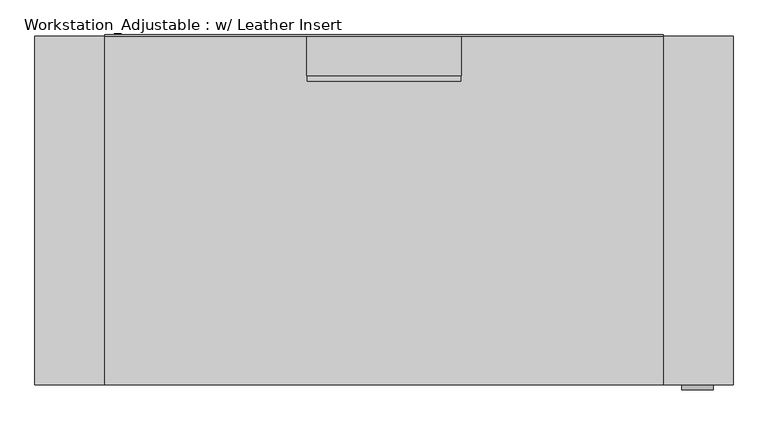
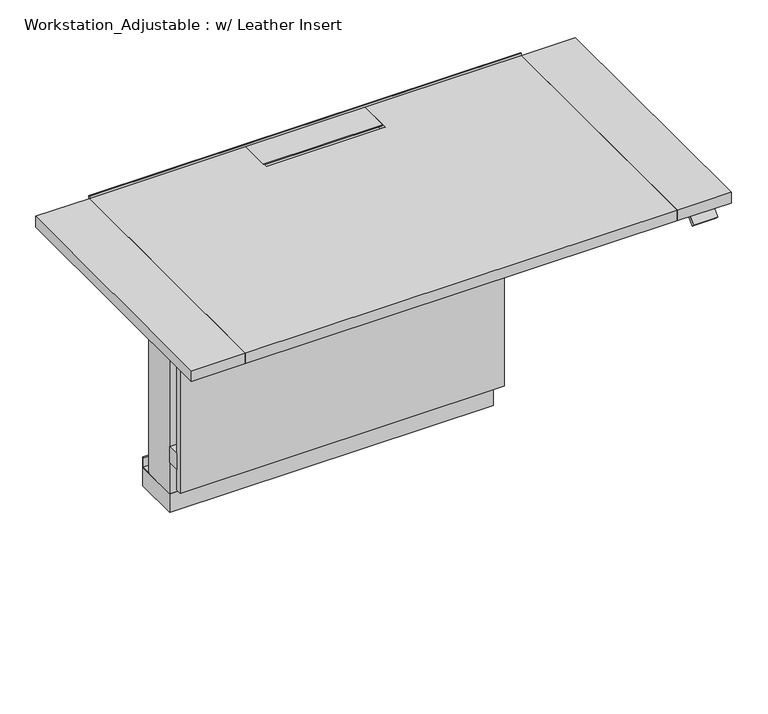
"""IFC4 building model written with IfcOpenShell, lengths in millimetres: furniture geometry, Workstation_Adjustable : w/ Leather Insert."""

from ifc_helpers import new_model, si_unit, frame, origin, origin_with_axes, place, context, project, spatial, polyline, outline, extrude, faceted_brep, source, transform, mapped, element, save


def workstation_adjustable_w_leather_insert_ceb2d98d(model_context):
    return source(origin(), model_context, "Body", "SolidModel", [
        extrude(outline(polyline([(-752.4201976, 882.65), (-701.8734375, 882.65), (-701.8734375, 869.7517789), (-753.8937348, 869.7517789), (-768.677545, 854.9679687), (-775.2953125, 861.5857362), (-757.9809444, 878.9001044), (-752.4201976, 878.9001044), (-752.4201976, 882.65)])), frame((650.24, 0.0, 0.0), z_axis=(1.0, 0.0, 0.0), x_axis=(0.0, 1.0, 0.0)), (0.0, 0.0, 1.0), 68.58),
        extrude(outline(polyline([(168.275, -3.175), (168.275, -89.535), (-168.275, -89.535), (-168.275, -3.175), (168.275, -3.175)])), frame((0.0, 0.0, 911.225), z_axis=(0.0, 0.0, 1.0), x_axis=(1.0, 0.0, 0.0)), (0.0, 0.0, 1.0), 3.175),
        faceted_brep([(609.6, -765.175, 914.4), (609.6, -3.175, 914.4), (168.275, -3.175, 914.4), (168.275, -102.235, 914.4), (-168.275, -102.235, 914.4), (-168.275, -3.175, 914.4), (-609.6, -3.175, 914.4), (-609.6, -765.175, 914.4), (609.6, -765.175, 882.65), (-609.6, -765.175, 882.65), (-609.6, -3.175, 882.65), (609.6, -3.175, 882.65), (-168.275, -3.175, 895.35), (168.275, -3.175, 895.35), (-168.275, -102.235, 895.35), (168.275, -102.235, 895.35)], [[[0, 1, 2, 3, 4, 5, 6, 7]], [[8, 9, 10, 11]], [[1, 0, 8, 11]], [[11, 10, 6, 5, 12, 13, 2, 1]], [[7, 6, 10, 9]], [[0, 7, 9, 8]], [[12, 14, 15, 13]], [[14, 12, 5, 4]], [[15, 14, 4, 3]], [[13, 15, 3, 2]]]),
        extrude(outline(polyline([(-609.6, -3.175), (-609.6, -765.175), (-762.0, -765.175), (-762.0, -3.175), (-609.6, -3.175)])), frame((0.0, 0.0, 882.65), z_axis=(0.0, 0.0, 1.0), x_axis=(1.0, 0.0, 0.0)), (0.0, 0.0, 1.0), 31.75),
        extrude(outline(polyline([(609.6, -765.175), (609.6, -3.175), (762.0, -3.175), (762.0, -765.175), (609.6, -765.175)])), frame((0.0, 0.0, 882.65), z_axis=(0.0, 0.0, 1.0), x_axis=(1.0, 0.0, 0.0)), (0.0, 0.0, 1.0), 31.75),
        extrude(outline(polyline([(609.6, 0.0), (609.6, -3.175), (-609.6, -3.175), (-609.6, 0.0), (609.6, 0.0)])), frame((0.0, 0.0, 882.65), z_axis=(0.0, 0.0, 1.0), x_axis=(1.0, 0.0, 0.0)), (0.0, 0.0, 1.0), 38.1),
        extrude(outline(polyline([(-577.3336445, 882.65), (-130.9634162, 882.65), (-130.9634162, 830.4520227), (-577.3336445, 861.6652697), (-577.3336445, 882.65)])), frame((-443.5, 0.0, 0.0), z_axis=(1.0, 0.0, 0.0), x_axis=(0.0, 1.0, 0.0)), (0.0, 0.0, 1.0), 66.675),
        extrude(outline(polyline([(-577.3336445, 882.65), (-130.9634162, 882.65), (-130.9634162, 830.6741833), (-577.3336445, 861.6652697), (-577.3336445, 882.65)])), frame((376.825, 0.0, 0.0), z_axis=(1.0, 0.0, 0.0), x_axis=(0.0, 1.0, 0.0)), (0.0, 0.0, 1.0), 66.675),
        extrude(outline(polyline([(443.5, -28.9460464), (443.5, -130.9634162), (-443.5, -130.9634162), (-443.5, -28.9460464), (443.5, -28.9460464)])), frame((0.0, 0.0, 647.7), z_axis=(0.0, 0.0, 1.0), x_axis=(1.0, 0.0, 0.0)), (0.0, 0.0, 1.0), 234.95),
        extrude(outline(polyline([(457.2, -130.9634162), (457.2, -165.1), (-457.2, -165.1), (-457.2, -130.9634162), (457.2, -130.9634162)])), frame((0.0, 0.0, 532.2152261), z_axis=(0.0, 0.0, 1.0), x_axis=(1.0, 0.0, 0.0)), (0.0, 0.0, 1.0), 47.8582985),
        extrude(outline(polyline([(457.2, -130.9634162), (457.2, -165.1), (-457.2, -165.1), (-457.2, -130.9634162), (457.2, -130.9634162)])), frame((0.0, 0.0, 149.1838463), z_axis=(0.0, 0.0, 1.0), x_axis=(1.0, 0.0, 0.0)), (0.0, 0.0, 1.0), 47.8582985),
        extrude(outline(polyline([(457.2, -165.1), (457.2, -183.0311159), (-457.2, -183.0311159), (-457.2, -165.1), (457.2, -165.1)])), frame((0.0, 0.0, 88.9), z_axis=(0.0, 0.0, 1.0), x_axis=(1.0, 0.0, 0.0)), (0.0, 0.0, 1.0), 558.8),
        extrude(outline(polyline([(457.2, 0.0), (457.2, -165.1), (-457.2, -165.1), (-457.2, 0.0), (457.2, 0.0)])), frame((0.0, 0.0, 628.6379484), z_axis=(0.0, 0.0, 1.0), x_axis=(1.0, 0.0, 0.0)), (0.0, 0.0, 1.0), 19.0620516),
        extrude(outline(polyline([(-15.0025037, 489.2598982), (-3.8829287, 489.2598982), (-3.8829287, 624.4492909), (-30.0050612, 624.4492909), (-30.0050612, 628.6379484), (0.0, 628.6379484), (0.0, 485.2002965), (-15.0025037, 485.2002965), (-15.0025037, 489.2598982)])), frame((-457.2, 0.0, 0.0), z_axis=(1.0, 0.0, 0.0), x_axis=(0.0, 1.0, 0.0)), (0.0, 0.0, 1.0), 914.4),
        extrude(outline(polyline([(0.0, 85.9815469), (0.0, 55.9507362), (-30.0050612, 55.9507362), (-30.0050612, 59.0724938), (-3.0004253, 59.0724938), (-3.0004253, 85.9815469), (0.0, 85.9815469)])), frame((-457.2, 0.0, 0.0), z_axis=(1.0, 0.0, 0.0), x_axis=(0.0, 1.0, 0.0)), (0.0, 0.0, 1.0), 914.4),
        extrude(outline(polyline([(457.2, -30.0050612), (457.2, -130.9634162), (-457.2, -130.9634162), (-457.2, -30.0050612), (457.2, -30.0050612)])), frame((0.0, 0.0, 55.9507362), z_axis=(0.0, 0.0, 1.0), x_axis=(1.0, 0.0, 0.0)), (0.0, 0.0, 1.0), 572.6872123),
        extrude(outline(polyline([(457.2, 0.0), (457.2, -130.9634162), (-457.2, -130.9634162), (-457.2, 0.0), (457.2, 0.0)])), origin_with_axes(), (0.0, 0.0, 1.0), 55.9507362),
    ])


if __name__ == "__main__":
    model = new_model("IFC4")
    model_context = context("Model", 3, world=origin())
    ifc_project = project(units=[si_unit("LENGTHUNIT", "METRE", prefix="MILLI")], contexts=[model_context])
    site = spatial("IfcSite", under=ifc_project)
    building = spatial("IfcBuilding", under=site)
    placement = place(None, origin())
    workstation_adjustable_w_leather_insert_shape = workstation_adjustable_w_leather_insert_ceb2d98d(model_context)
    element("IfcFurniture", 1, ObjectType="Workstation_Adjustable : w/ Leather Insert", at=placement, inside=building, context=model_context, shape_type="MappedRepresentation", body=[
        mapped(workstation_adjustable_w_leather_insert_shape, transform((0.0, 0.0, 0.0), x_axis=(1.0, 0.0, 0.0), y_axis=(0.0, 1.0, 0.0), z_axis=(0.0, 0.0, 1.0))),
    ])
    save(model, "model.ifc")
